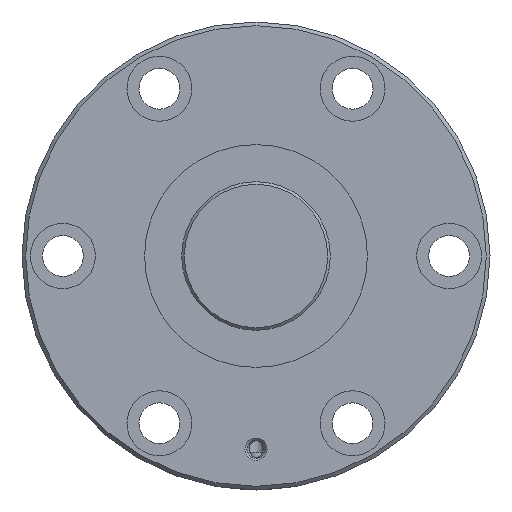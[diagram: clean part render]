
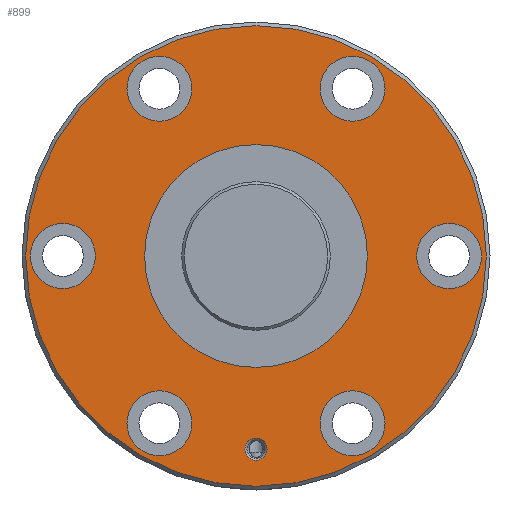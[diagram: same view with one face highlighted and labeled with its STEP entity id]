
A CAD part, left-side view. The second image highlights one B-rep face of the part: STEP entity #899.
In plain terms, the highlighted planar face has unit normal (-1, 0, 0).
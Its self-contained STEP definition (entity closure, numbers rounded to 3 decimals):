
#147=ORIENTED_EDGE('',*,*,#340,.T.);
#148=ORIENTED_EDGE('',*,*,#341,.T.);
#149=ORIENTED_EDGE('',*,*,#342,.T.);
#150=ORIENTED_EDGE('',*,*,#343,.T.);
#151=ORIENTED_EDGE('',*,*,#344,.T.);
#152=ORIENTED_EDGE('',*,*,#345,.T.);
#153=ORIENTED_EDGE('',*,*,#346,.T.);
#154=ORIENTED_EDGE('',*,*,#347,.T.);
#155=ORIENTED_EDGE('',*,*,#339,.F.);
#339=EDGE_CURVE('',#439,#439,#522,.T.);
#340=EDGE_CURVE('',#440,#440,#523,.T.);
#341=EDGE_CURVE('',#441,#441,#524,.F.);
#342=EDGE_CURVE('',#442,#442,#525,.T.);
#343=EDGE_CURVE('',#443,#443,#526,.T.);
#344=EDGE_CURVE('',#444,#444,#527,.T.);
#345=EDGE_CURVE('',#445,#445,#528,.T.);
#346=EDGE_CURVE('',#446,#446,#529,.T.);
#347=EDGE_CURVE('',#447,#447,#530,.T.);
#439=VERTEX_POINT('',#1508);
#440=VERTEX_POINT('',#1511);
#441=VERTEX_POINT('',#1513);
#442=VERTEX_POINT('',#1515);
#443=VERTEX_POINT('',#1517);
#444=VERTEX_POINT('',#1519);
#445=VERTEX_POINT('',#1521);
#446=VERTEX_POINT('',#1523);
#447=VERTEX_POINT('',#1525);
#522=CIRCLE('',#1005,62.);
#523=CIRCLE('',#1007,30.);
#524=CIRCLE('',#1008,8.75);
#525=CIRCLE('',#1009,3.);
#526=CIRCLE('',#1010,8.75);
#527=CIRCLE('',#1011,8.75);
#528=CIRCLE('',#1012,8.75);
#529=CIRCLE('',#1013,8.75);
#530=CIRCLE('',#1014,8.75);
#602=EDGE_LOOP('',(#147));
#603=EDGE_LOOP('',(#148));
#604=EDGE_LOOP('',(#149));
#605=EDGE_LOOP('',(#150));
#606=EDGE_LOOP('',(#151));
#607=EDGE_LOOP('',(#152));
#608=EDGE_LOOP('',(#153));
#609=EDGE_LOOP('',(#154));
#610=EDGE_LOOP('',(#155));
#742=FACE_BOUND('',#602,.T.);
#743=FACE_BOUND('',#603,.T.);
#744=FACE_BOUND('',#604,.T.);
#745=FACE_BOUND('',#605,.T.);
#746=FACE_BOUND('',#606,.T.);
#747=FACE_BOUND('',#607,.T.);
#748=FACE_BOUND('',#608,.T.);
#749=FACE_BOUND('',#609,.T.);
#750=FACE_BOUND('',#610,.T.);
#864=PLANE('',#1006);
#899=ADVANCED_FACE('',(#742,#743,#744,#745,#746,#747,#748,#749,#750),#864,
 .T.);
#1005=AXIS2_PLACEMENT_3D('',#1507,#1171,#1172);
#1006=AXIS2_PLACEMENT_3D('',#1509,#1173,#1174);
#1007=AXIS2_PLACEMENT_3D('',#1510,#1175,#1176);
#1008=AXIS2_PLACEMENT_3D('',#1512,#1177,#1178);
#1009=AXIS2_PLACEMENT_3D('',#1514,#1179,#1180);
#1010=AXIS2_PLACEMENT_3D('',#1516,#1181,#1182);
#1011=AXIS2_PLACEMENT_3D('',#1518,#1183,#1184);
#1012=AXIS2_PLACEMENT_3D('',#1520,#1185,#1186);
#1013=AXIS2_PLACEMENT_3D('',#1522,#1187,#1188);
#1014=AXIS2_PLACEMENT_3D('',#1524,#1189,#1190);
#1171=DIRECTION('',(1.,0.,0.));
#1172=DIRECTION('',(0.,0.,-1.));
#1173=DIRECTION('',(-1.,0.,0.));
#1174=DIRECTION('',(0.,0.,1.));
#1175=DIRECTION('',(1.,0.,0.));
#1176=DIRECTION('',(0.,0.,-1.));
#1177=DIRECTION('',(-1.,0.,0.));
#1178=DIRECTION('',(0.,0.,1.));
#1179=DIRECTION('',(1.,0.,0.));
#1180=DIRECTION('',(0.,0.,-1.));
#1181=DIRECTION('',(1.,0.,0.));
#1182=DIRECTION('',(0.,0.,-1.));
#1183=DIRECTION('',(1.,0.,0.));
#1184=DIRECTION('',(0.,0.,-1.));
#1185=DIRECTION('',(1.,0.,0.));
#1186=DIRECTION('',(0.,0.,-1.));
#1187=DIRECTION('',(1.,0.,0.));
#1188=DIRECTION('',(0.,0.,-1.));
#1189=DIRECTION('',(1.,0.,0.));
#1190=DIRECTION('',(0.,0.,-1.));
#1507=CARTESIAN_POINT('',(0.,0.,0.));
#1508=CARTESIAN_POINT('',(0.,0.,-62.));
#1509=CARTESIAN_POINT('',(0.,62.,0.));
#1510=CARTESIAN_POINT('',(0.,0.,0.));
#1511=CARTESIAN_POINT('',(0.,0.,-30.));
#1512=CARTESIAN_POINT('',(0.,52.,0.));
#1513=CARTESIAN_POINT('',(0.,52.,8.75));
#1514=CARTESIAN_POINT('',(0.,0.,-52.));
#1515=CARTESIAN_POINT('',(0.,0.,-55.));
#1516=CARTESIAN_POINT('',(0.,-52.,0.));
#1517=CARTESIAN_POINT('',(0.,-52.,-8.75));
#1518=CARTESIAN_POINT('',(0.,26.,45.033));
#1519=CARTESIAN_POINT('',(0.,26.,36.283));
#1520=CARTESIAN_POINT('',(0.,-26.,-45.033));
#1521=CARTESIAN_POINT('',(0.,-26.,-53.783));
#1522=CARTESIAN_POINT('',(0.,-26.,45.033));
#1523=CARTESIAN_POINT('',(0.,-26.,36.283));
#1524=CARTESIAN_POINT('',(0.,26.,-45.033));
#1525=CARTESIAN_POINT('',(0.,26.,-53.783));
